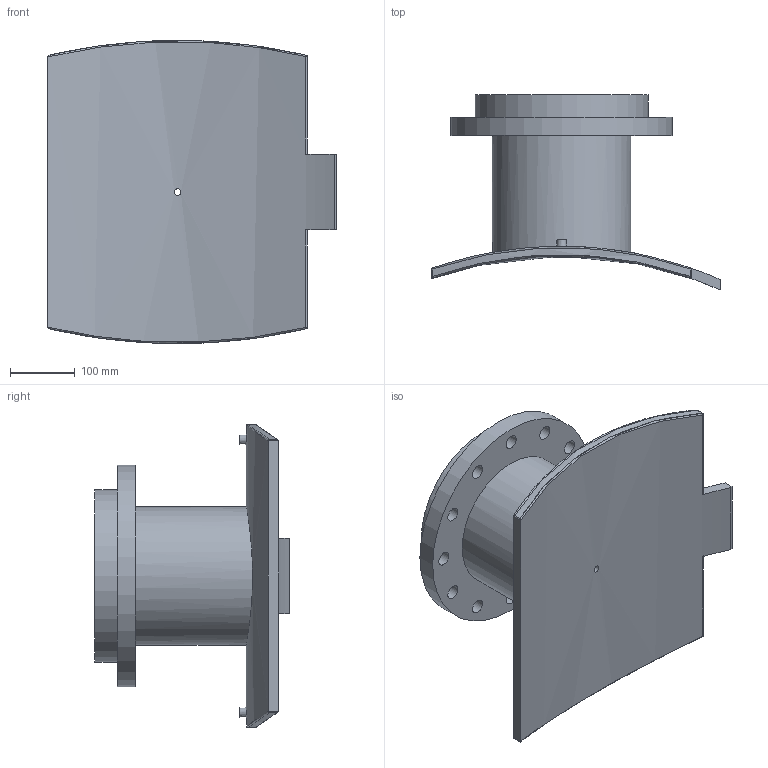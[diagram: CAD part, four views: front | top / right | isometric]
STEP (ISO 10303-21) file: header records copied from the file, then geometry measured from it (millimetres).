
FILE_DESCRIPTION(/* description */ ('PLASSON FLANGED BRANCH SADDLE 1200X200'),/* implementation_level */ '2;1');
FILE_NAME(/* name */ 'C:\Dropbox\KIMPROJECTS-Inventor 2019\99-16-3568-Processing\ElectroFusion Fittings\495904_495903\stp\4959031200200T.stp',/* time_stamp */ '2024-04-03T21:03:20+02:00',/* author */ ('KIM'),/* organization */ (''),/* preprocessor_version */ 'ST-DEVELOPER v17.2',/* originating_system */ 'Autodesk Inventor 2019',/* authorisation */ '');
FILE_SCHEMA (('AUTOMOTIVE_DESIGN { 1 0 10303 214 3 1 1 }'));
Length unit declared in the file: millimetre
Products named in the file (1): 4959031200200T
Bounding box: 447 x 301.28 x 469.42 mm (x, y, z)
Volume: 8707933.7 mm3; surface area: 853851.2 mm2
Topology: 1 solids, 1 shells, 62 faces, 163 edges, 126 vertices
Faces by surface type: cylinder 35, plane 17, sphere 4, bspline 4, cone 2
Full cylindrical faces by diameter (mm): 4 x2, 10 x2, 10.4 x1, 16 x1, 22 x12, 163 x1, 214.4 x1, 268 x1, 344 x1
Entity records: 2548 total; most frequent: CARTESIAN_POINT 920, DIRECTION 325, ORIENTED_EDGE 298, EDGE_CURVE 149, AXIS2_PLACEMENT_3D 137, VERTEX_POINT 100, EDGE_LOOP 99, CIRCLE 78
